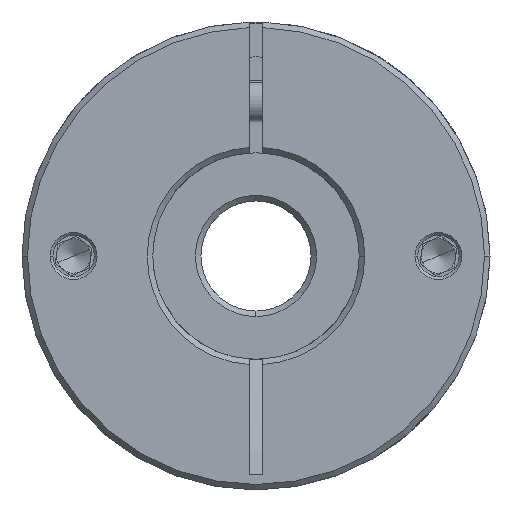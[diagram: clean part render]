
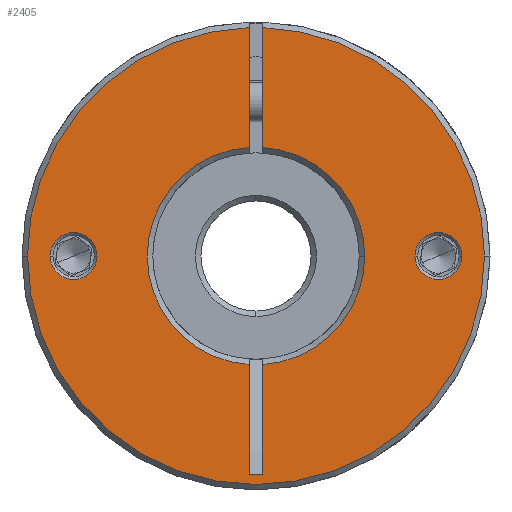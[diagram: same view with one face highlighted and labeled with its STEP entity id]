
A CAD part, front view. The second image highlights one B-rep face of the part: STEP entity #2405.
In plain terms, the highlighted planar face has unit normal (0, -1, 0).
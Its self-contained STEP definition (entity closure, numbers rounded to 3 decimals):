
#89 = ORIENTED_EDGE ( 'NONE', *, *, #2953, .T. ) ;
#168 = VECTOR ( 'NONE', #8719, 1000. ) ;
#345 = CARTESIAN_POINT ( 'NONE',  ( -3.735, -47.045, 36.279 ) ) ;
#398 = CARTESIAN_POINT ( 'NONE',  ( -2.735, -47.045, 68. ) ) ;
#434 = DIRECTION ( 'NONE',  ( 0., 1., 0. ) ) ;
#679 = VERTEX_POINT ( 'NONE', #1856 ) ;
#697 = CIRCLE ( 'NONE', #5766, 3.4 ) ;
#973 = CARTESIAN_POINT ( 'NONE',  ( -35.935, -47.045, 68. ) ) ;
#1022 = CARTESIAN_POINT ( 'NONE',  ( -29.235, -47.045, 68. ) ) ;
#1043 = ORIENTED_EDGE ( 'NONE', *, *, #3804, .F. ) ;
#1230 = DIRECTION ( 'NONE',  ( 0., 1., 0. ) ) ;
#1277 = CARTESIAN_POINT ( 'NONE',  ( -2.735, -47.045, 68. ) ) ;
#1284 = DIRECTION ( 'NONE',  ( 0., 1., 0. ) ) ;
#1293 = EDGE_CURVE ( 'NONE', #12668, #6560, #7253, .T. ) ;
#1487 = VERTEX_POINT ( 'NONE', #4580 ) ;
#1768 = VECTOR ( 'NONE', #2223, 1000. ) ;
#1856 = CARTESIAN_POINT ( 'NONE',  ( -1.735, -47.045, 101.185 ) ) ;
#1896 = VERTEX_POINT ( 'NONE', #5421 ) ;
#2223 = DIRECTION ( 'NONE',  ( 0., 0., -1. ) ) ;
#2228 = DIRECTION ( 'NONE',  ( 0., -1., 0. ) ) ;
#2354 = ORIENTED_EDGE ( 'NONE', *, *, #8986, .T. ) ;
#2405 = ADVANCED_FACE ( 'NONE', ( #2567, #10390, #7117 ), #5249, .T. ) ;
#2446 = CARTESIAN_POINT ( 'NONE',  ( 13.065, -47.045, 68. ) ) ;
#2530 = DIRECTION ( 'NONE',  ( -1., 0., 0. ) ) ;
#2567 = FACE_BOUND ( 'NONE', #8172, .T. ) ;
#2611 = VERTEX_POINT ( 'NONE', #5798 ) ;
#2719 = DIRECTION ( 'NONE',  ( 0., -1., 0. ) ) ;
#2953 = EDGE_CURVE ( 'NONE', #9401, #7511, #13429, .T. ) ;
#3188 = DIRECTION ( 'NONE',  ( 0., 1., 0. ) ) ;
#3250 = CARTESIAN_POINT ( 'NONE',  ( -1.735, -47.045, 36.279 ) ) ;
#3273 = CARTESIAN_POINT ( 'NONE',  ( -2.735, -47.045, 68. ) ) ;
#3469 = CARTESIAN_POINT ( 'NONE',  ( -2.735, -47.045, 68. ) ) ;
#3549 = ORIENTED_EDGE ( 'NONE', *, *, #6195, .T. ) ;
#3593 = CARTESIAN_POINT ( 'NONE',  ( -2.735, -47.045, 68. ) ) ;
#3763 = CARTESIAN_POINT ( 'NONE',  ( -3.735, -47.045, 68. ) ) ;
#3766 = VERTEX_POINT ( 'NONE', #345 ) ;
#3804 = EDGE_CURVE ( 'NONE', #12668, #2611, #5155, .T. ) ;
#3905 = DIRECTION ( 'NONE',  ( 0., 0., -1. ) ) ;
#3990 = ORIENTED_EDGE ( 'NONE', *, *, #8727, .T. ) ;
#4041 = CIRCLE ( 'NONE', #10795, 33.2 ) ;
#4159 = EDGE_CURVE ( 'NONE', #10867, #1487, #7059, .T. ) ;
#4272 = ORIENTED_EDGE ( 'NONE', *, *, #9476, .T. ) ;
#4308 = CARTESIAN_POINT ( 'NONE',  ( 23.765, -47.045, 68. ) ) ;
#4411 = AXIS2_PLACEMENT_3D ( 'NONE', #1277, #1230, #7498 ) ;
#4445 = CARTESIAN_POINT ( 'NONE',  ( -3.735, -47.045, 36.279 ) ) ;
#4500 = CIRCLE ( 'NONE', #10057, 3.4 ) ;
#4580 = CARTESIAN_POINT ( 'NONE',  ( -1.735, -47.045, 52.232 ) ) ;
#4733 = ORIENTED_EDGE ( 'NONE', *, *, #4159, .T. ) ;
#5010 = CARTESIAN_POINT ( 'NONE',  ( 27.165, -47.045, 68. ) ) ;
#5097 = ORIENTED_EDGE ( 'NONE', *, *, #8432, .T. ) ;
#5155 = LINE ( 'NONE', #6731, #168 ) ;
#5249 = PLANE ( 'NONE',  #6102 ) ;
#5263 = DIRECTION ( 'NONE',  ( 1., 0., 0. ) ) ;
#5421 = CARTESIAN_POINT ( 'NONE',  ( -1.735, -47.045, 83.768 ) ) ;
#5548 = AXIS2_PLACEMENT_3D ( 'NONE', #11606, #3188, #5263 ) ;
#5766 = AXIS2_PLACEMENT_3D ( 'NONE', #7993, #12249, #11142 ) ;
#5798 = CARTESIAN_POINT ( 'NONE',  ( -3.735, -47.045, 83.768 ) ) ;
#5852 = AXIS2_PLACEMENT_3D ( 'NONE', #3593, #2719, #13168 ) ;
#5924 = ORIENTED_EDGE ( 'NONE', *, *, #7902, .T. ) ;
#6102 = AXIS2_PLACEMENT_3D ( 'NONE', #10493, #6383, #9512 ) ;
#6105 = CARTESIAN_POINT ( 'NONE',  ( -25.835, -47.045, 68. ) ) ;
#6195 = EDGE_CURVE ( 'NONE', #9488, #679, #4041, .T. ) ;
#6327 = EDGE_CURVE ( 'NONE', #1896, #10867, #8119, .T. ) ;
#6383 = DIRECTION ( 'NONE',  ( 0., -1., 0. ) ) ;
#6408 = DIRECTION ( 'NONE',  ( 0., 1., 0. ) ) ;
#6548 = DIRECTION ( 'NONE',  ( 0., -1., 0. ) ) ;
#6560 = VERTEX_POINT ( 'NONE', #973 ) ;
#6685 = LINE ( 'NONE', #10164, #11594 ) ;
#6731 = CARTESIAN_POINT ( 'NONE',  ( -3.735, -47.045, 68. ) ) ;
#6877 = ORIENTED_EDGE ( 'NONE', *, *, #1293, .T. ) ;
#7042 = CIRCLE ( 'NONE', #5548, 3.4 ) ;
#7059 = CIRCLE ( 'NONE', #4411, 15.8 ) ;
#7117 = FACE_OUTER_BOUND ( 'NONE', #7322, .T. ) ;
#7195 = CARTESIAN_POINT ( 'NONE',  ( 20.365, -47.045, 68. ) ) ;
#7218 = AXIS2_PLACEMENT_3D ( 'NONE', #3469, #434, #12918 ) ;
#7253 = CIRCLE ( 'NONE', #10170, 33.2 ) ;
#7257 = CARTESIAN_POINT ( 'NONE',  ( -1.735, -47.045, 68. ) ) ;
#7321 = LINE ( 'NONE', #4445, #11566 ) ;
#7322 = EDGE_LOOP ( 'NONE', ( #1043, #6877, #3990, #3549, #7575, #11355, #4733, #5097, #2354, #12695, #12693 ) ) ;
#7443 = VERTEX_POINT ( 'NONE', #6105 ) ;
#7498 = DIRECTION ( 'NONE',  ( 1., 0., 0. ) ) ;
#7511 = VERTEX_POINT ( 'NONE', #5010 ) ;
#7575 = ORIENTED_EDGE ( 'NONE', *, *, #10835, .T. ) ;
#7631 = EDGE_CURVE ( 'NONE', #7511, #9401, #7042, .T. ) ;
#7902 = EDGE_CURVE ( 'NONE', #12102, #7443, #697, .T. ) ;
#7993 = CARTESIAN_POINT ( 'NONE',  ( -29.235, -47.045, 68. ) ) ;
#8119 = CIRCLE ( 'NONE', #7218, 15.8 ) ;
#8172 = EDGE_LOOP ( 'NONE', ( #12706, #89 ) ) ;
#8204 = EDGE_LOOP ( 'NONE', ( #4272, #5924 ) ) ;
#8428 = CARTESIAN_POINT ( 'NONE',  ( -3.735, -47.045, 101.185 ) ) ;
#8432 = EDGE_CURVE ( 'NONE', #1487, #10511, #6685, .T. ) ;
#8632 = EDGE_CURVE ( 'NONE', #10557, #2611, #12243, .T. ) ;
#8719 = DIRECTION ( 'NONE',  ( 0., 0., -1. ) ) ;
#8727 = EDGE_CURVE ( 'NONE', #6560, #9488, #9099, .T. ) ;
#8986 = EDGE_CURVE ( 'NONE', #10511, #3766, #7321, .T. ) ;
#9099 = CIRCLE ( 'NONE', #5852, 33.2 ) ;
#9401 = VERTEX_POINT ( 'NONE', #7195 ) ;
#9476 = EDGE_CURVE ( 'NONE', #7443, #12102, #4500, .T. ) ;
#9488 = VERTEX_POINT ( 'NONE', #11539 ) ;
#9512 = DIRECTION ( 'NONE',  ( 1., 0., 0. ) ) ;
#9536 = CARTESIAN_POINT ( 'NONE',  ( -2.735, -47.045, 68. ) ) ;
#9626 = CARTESIAN_POINT ( 'NONE',  ( -3.735, -47.045, 52.232 ) ) ;
#9641 = CARTESIAN_POINT ( 'NONE',  ( -32.635, -47.045, 68. ) ) ;
#9879 = AXIS2_PLACEMENT_3D ( 'NONE', #9536, #1284, #10520 ) ;
#10057 = AXIS2_PLACEMENT_3D ( 'NONE', #1022, #13337, #12363 ) ;
#10164 = CARTESIAN_POINT ( 'NONE',  ( -1.735, -47.045, 68. ) ) ;
#10170 = AXIS2_PLACEMENT_3D ( 'NONE', #3273, #2228, #10550 ) ;
#10223 = LINE ( 'NONE', #7257, #1768 ) ;
#10390 = FACE_BOUND ( 'NONE', #8204, .T. ) ;
#10490 = VECTOR ( 'NONE', #11279, 1000. ) ;
#10493 = CARTESIAN_POINT ( 'NONE',  ( -2.735, -47.045, 68. ) ) ;
#10511 = VERTEX_POINT ( 'NONE', #3250 ) ;
#10520 = DIRECTION ( 'NONE',  ( 1., 0., 0. ) ) ;
#10550 = DIRECTION ( 'NONE',  ( 1., 0., 0. ) ) ;
#10557 = VERTEX_POINT ( 'NONE', #9626 ) ;
#10705 = DIRECTION ( 'NONE',  ( 1., 0., 0. ) ) ;
#10795 = AXIS2_PLACEMENT_3D ( 'NONE', #398, #6548, #10705 ) ;
#10835 = EDGE_CURVE ( 'NONE', #679, #1896, #10223, .T. ) ;
#10867 = VERTEX_POINT ( 'NONE', #2446 ) ;
#11142 = DIRECTION ( 'NONE',  ( 1., 0., 0. ) ) ;
#11279 = DIRECTION ( 'NONE',  ( 0., 0., -1. ) ) ;
#11355 = ORIENTED_EDGE ( 'NONE', *, *, #6327, .T. ) ;
#11539 = CARTESIAN_POINT ( 'NONE',  ( 30.465, -47.045, 68. ) ) ;
#11566 = VECTOR ( 'NONE', #2530, 1000. ) ;
#11594 = VECTOR ( 'NONE', #3905, 1000. ) ;
#11606 = CARTESIAN_POINT ( 'NONE',  ( 23.765, -47.045, 68. ) ) ;
#11622 = DIRECTION ( 'NONE',  ( 1., 0., 0. ) ) ;
#11635 = LINE ( 'NONE', #3763, #10490 ) ;
#12102 = VERTEX_POINT ( 'NONE', #9641 ) ;
#12243 = CIRCLE ( 'NONE', #9879, 15.8 ) ;
#12249 = DIRECTION ( 'NONE',  ( 0., 1., 0. ) ) ;
#12281 = AXIS2_PLACEMENT_3D ( 'NONE', #4308, #6408, #11622 ) ;
#12363 = DIRECTION ( 'NONE',  ( 1., 0., 0. ) ) ;
#12668 = VERTEX_POINT ( 'NONE', #8428 ) ;
#12693 = ORIENTED_EDGE ( 'NONE', *, *, #8632, .T. ) ;
#12695 = ORIENTED_EDGE ( 'NONE', *, *, #13263, .F. ) ;
#12706 = ORIENTED_EDGE ( 'NONE', *, *, #7631, .T. ) ;
#12918 = DIRECTION ( 'NONE',  ( 1., 0., 0. ) ) ;
#13168 = DIRECTION ( 'NONE',  ( 1., 0., 0. ) ) ;
#13263 = EDGE_CURVE ( 'NONE', #10557, #3766, #11635, .T. ) ;
#13337 = DIRECTION ( 'NONE',  ( 0., 1., 0. ) ) ;
#13429 = CIRCLE ( 'NONE', #12281, 3.4 ) ;
